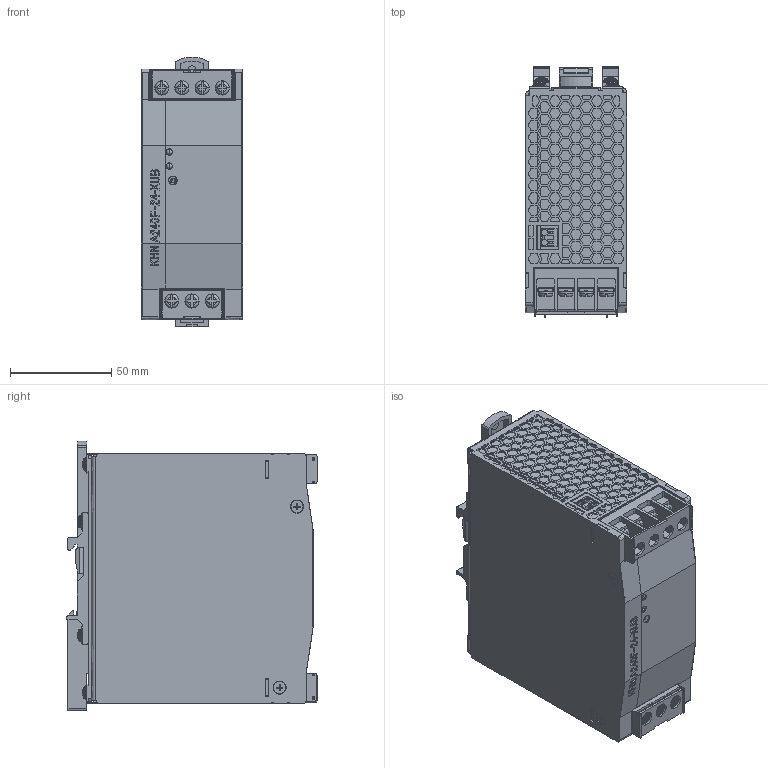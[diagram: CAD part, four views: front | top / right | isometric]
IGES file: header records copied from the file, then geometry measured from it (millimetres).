
Start section: Elysium IGES Interface
Global section: file name: 52HY:\data\KHA\3D\KHNA-XUB\提出用\khna240f-xub(igs).igs; native system: CoCreate Modeling 17.0  01-Apr-2010; preprocessor: CoCreate IGES_3D V2.2; author: Unknown; organization: Unknown; date: 20161130.155100; units: millimetre
Bounding box: 50 x 123.7 x 133.45 mm (x, y, z)
Volume: 648837.3 mm3; surface area: 105298.7 mm2
Topology: 1 solids, 20 shells, 6607 faces, 19364 edges, 12698 vertices
Faces by surface type: bspline 6607
